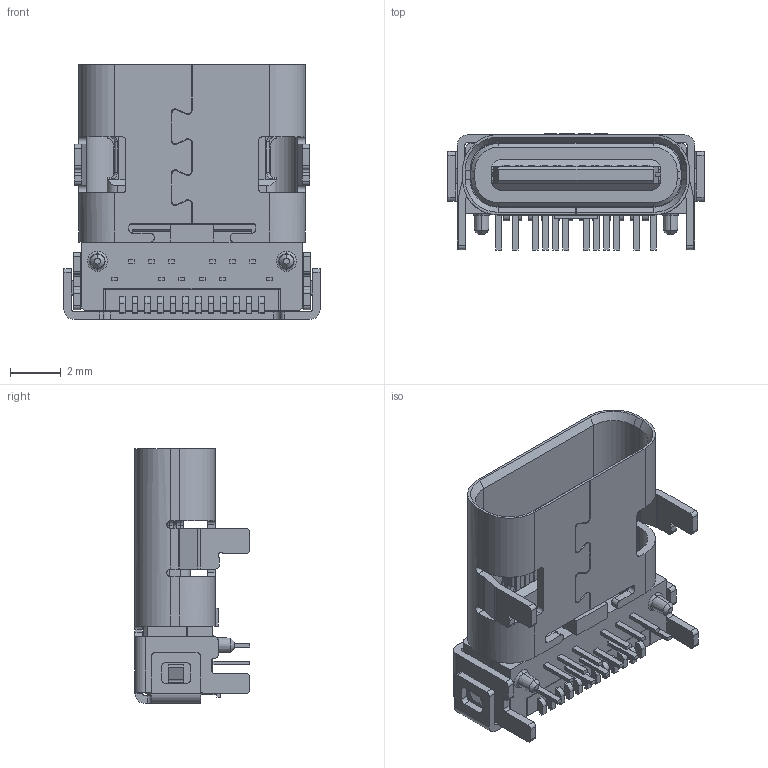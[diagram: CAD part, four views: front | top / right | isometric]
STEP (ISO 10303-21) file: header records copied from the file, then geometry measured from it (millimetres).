
FILE_DESCRIPTION (( 'STEP AP214' ), '1' );
FILE_NAME ('U5125-24PN10.0L.STEP', '2026-06-02T06:59:08', ( '' ), ( '' ), 'SwSTEP 2.0', 'SolidWorks 2024', '' );
FILE_SCHEMA (( 'AUTOMOTIVE_DESIGN' ));
Length unit declared in the file: millimetre
Products named in the file (1): U5125-24PN10.0L
Bounding box: 10.1 x 4.57 x 10.05 mm (x, y, z)
Volume: 162.6 mm3; surface area: 706.5 mm2
Topology: 3 solids, 5 shells, 900 faces, 2545 edges, 1664 vertices
Faces by surface type: plane 658, cylinder 181, bspline 29, cone 20, torus 12
Entity records: 30398 total; most frequent: CARTESIAN_POINT 6845, ORIENTED_EDGE 5090, DIRECTION 4649, EDGE_CURVE 2545, VECTOR 2029, LINE 2029, VERTEX_POINT 1664, AXIS2_PLACEMENT_3D 1310
